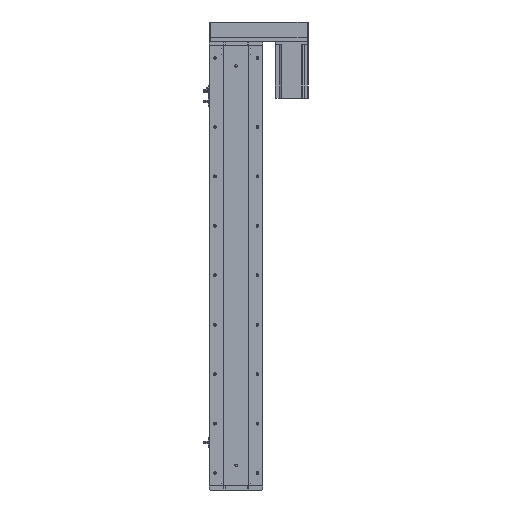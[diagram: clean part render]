
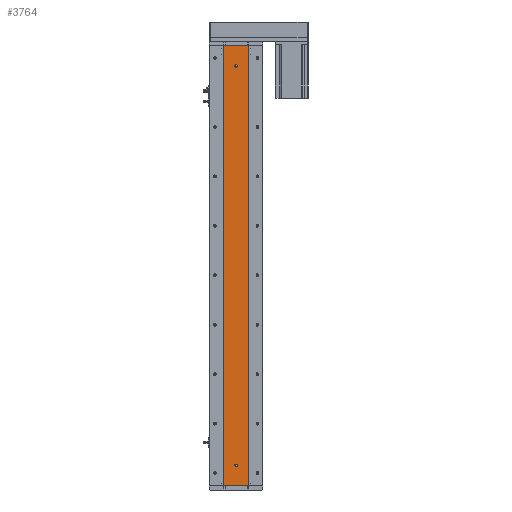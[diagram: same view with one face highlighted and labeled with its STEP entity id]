
A CAD part, left-side view. The second image highlights one B-rep face of the part: STEP entity #3764.
In plain terms, the highlighted planar face has unit normal (-1, 0, 0).
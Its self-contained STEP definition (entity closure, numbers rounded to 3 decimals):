
#118 = CARTESIAN_POINT ( 'NONE',  ( -24.994, -29.785, 0. ) ) ;
#349 = LINE ( 'NONE', #31557, #11146 ) ;
#865 = AXIS2_PLACEMENT_3D ( 'NONE', #8820, #34320, #12483 ) ;
#1896 = LINE ( 'NONE', #22833, #29828 ) ;
#2119 = CIRCLE ( 'NONE', #11476, 3. ) ;
#3764 = ADVANCED_FACE ( 'NONE', ( #26400, #16720, #34947 ), #35056, .F. ) ;
#5273 = VERTEX_POINT ( 'NONE', #28126 ) ;
#6549 = EDGE_CURVE ( 'NONE', #38522, #5273, #2119, .T. ) ;
#6671 = CIRCLE ( 'NONE', #865, 3. ) ;
#6936 = VERTEX_POINT ( 'NONE', #14457 ) ;
#7376 = DIRECTION ( 'NONE',  ( -1., 0., 0. ) ) ;
#8820 = CARTESIAN_POINT ( 'NONE',  ( -24.994, 0., 50. ) ) ;
#8858 = VERTEX_POINT ( 'NONE', #14610 ) ;
#9101 = AXIS2_PLACEMENT_3D ( 'NONE', #16028, #41478, #19709 ) ;
#9588 = VECTOR ( 'NONE', #18012, 1000. ) ;
#9702 = DIRECTION ( 'NONE',  ( 0., -1., 0. ) ) ;
#10252 = AXIS2_PLACEMENT_3D ( 'NONE', #29227, #7376, #32865 ) ;
#10328 = EDGE_LOOP ( 'NONE', ( #16203, #44914 ) ) ;
#10852 = CIRCLE ( 'NONE', #10252, 3. ) ;
#11146 = VECTOR ( 'NONE', #9702, 1000. ) ;
#11476 = AXIS2_PLACEMENT_3D ( 'NONE', #41228, #19440, #44890 ) ;
#12483 = DIRECTION ( 'NONE',  ( 0., 0., 1. ) ) ;
#13153 = ORIENTED_EDGE ( 'NONE', *, *, #46495, .F. ) ;
#14457 = CARTESIAN_POINT ( 'NONE',  ( -24.994, 29.785, 0. ) ) ;
#14610 = CARTESIAN_POINT ( 'NONE',  ( -24.994, 0., 1022. ) ) ;
#15378 = ORIENTED_EDGE ( 'NONE', *, *, #17985, .F. ) ;
#16028 = CARTESIAN_POINT ( 'NONE',  ( -24.994, 0., 1019. ) ) ;
#16203 = ORIENTED_EDGE ( 'NONE', *, *, #23705, .F. ) ;
#16720 = FACE_BOUND ( 'NONE', #10328, .T. ) ;
#17069 = CARTESIAN_POINT ( 'NONE',  ( -24.994, 29.785, 1069. ) ) ;
#17148 = EDGE_CURVE ( 'NONE', #25633, #6936, #29032, .T. ) ;
#17985 = EDGE_CURVE ( 'NONE', #42693, #8858, #36855, .T. ) ;
#18012 = DIRECTION ( 'NONE',  ( 0., 0., -1. ) ) ;
#19440 = DIRECTION ( 'NONE',  ( -1., 0., 0. ) ) ;
#19565 = AXIS2_PLACEMENT_3D ( 'NONE', #17069, #42510, #20751 ) ;
#19709 = DIRECTION ( 'NONE',  ( 0., 0., 1. ) ) ;
#20751 = DIRECTION ( 'NONE',  ( 0., 0., -1. ) ) ;
#21172 = ORIENTED_EDGE ( 'NONE', *, *, #40652, .T. ) ;
#21510 = VERTEX_POINT ( 'NONE', #118 ) ;
#22099 = CARTESIAN_POINT ( 'NONE',  ( -24.994, 0., 1016. ) ) ;
#22833 = CARTESIAN_POINT ( 'NONE',  ( -24.994, 29.785, 0. ) ) ;
#23145 = EDGE_LOOP ( 'NONE', ( #21172, #39780, #29480, #37498 ) ) ;
#23705 = EDGE_CURVE ( 'NONE', #5273, #38522, #6671, .T. ) ;
#24157 = DIRECTION ( 'NONE',  ( 0., 0., -1. ) ) ;
#25633 = VERTEX_POINT ( 'NONE', #29002 ) ;
#26099 = EDGE_CURVE ( 'NONE', #38131, #21510, #29922, .T. ) ;
#26400 = FACE_BOUND ( 'NONE', #44105, .T. ) ;
#28126 = CARTESIAN_POINT ( 'NONE',  ( -24.994, 0., 53. ) ) ;
#29002 = CARTESIAN_POINT ( 'NONE',  ( -24.994, 29.785, 1069. ) ) ;
#29032 = LINE ( 'NONE', #29035, #9588 ) ;
#29035 = CARTESIAN_POINT ( 'NONE',  ( -24.994, 29.785, 1069. ) ) ;
#29227 = CARTESIAN_POINT ( 'NONE',  ( -24.994, 0., 1019. ) ) ;
#29418 = CARTESIAN_POINT ( 'NONE',  ( -24.994, -29.785, 1069. ) ) ;
#29480 = ORIENTED_EDGE ( 'NONE', *, *, #43648, .F. ) ;
#29828 = VECTOR ( 'NONE', #33645, 1000. ) ;
#29922 = LINE ( 'NONE', #45922, #38423 ) ;
#31557 = CARTESIAN_POINT ( 'NONE',  ( -24.994, 29.785, 1069. ) ) ;
#32865 = DIRECTION ( 'NONE',  ( 0., 0., 1. ) ) ;
#33645 = DIRECTION ( 'NONE',  ( 0., -1., 0. ) ) ;
#34320 = DIRECTION ( 'NONE',  ( -1., 0., 0. ) ) ;
#34947 = FACE_OUTER_BOUND ( 'NONE', #23145, .T. ) ;
#35056 = PLANE ( 'NONE',  #19565 ) ;
#36855 = CIRCLE ( 'NONE', #9101, 3. ) ;
#37498 = ORIENTED_EDGE ( 'NONE', *, *, #17148, .T. ) ;
#38131 = VERTEX_POINT ( 'NONE', #29418 ) ;
#38423 = VECTOR ( 'NONE', #24157, 1000. ) ;
#38522 = VERTEX_POINT ( 'NONE', #39211 ) ;
#39211 = CARTESIAN_POINT ( 'NONE',  ( -24.994, 0., 47. ) ) ;
#39780 = ORIENTED_EDGE ( 'NONE', *, *, #26099, .F. ) ;
#40652 = EDGE_CURVE ( 'NONE', #6936, #21510, #1896, .T. ) ;
#41228 = CARTESIAN_POINT ( 'NONE',  ( -24.994, 0., 50. ) ) ;
#41478 = DIRECTION ( 'NONE',  ( -1., 0., 0. ) ) ;
#42510 = DIRECTION ( 'NONE',  ( 1., 0., 0. ) ) ;
#42693 = VERTEX_POINT ( 'NONE', #22099 ) ;
#43648 = EDGE_CURVE ( 'NONE', #25633, #38131, #349, .T. ) ;
#44105 = EDGE_LOOP ( 'NONE', ( #13153, #15378 ) ) ;
#44890 = DIRECTION ( 'NONE',  ( 0., 0., 1. ) ) ;
#44914 = ORIENTED_EDGE ( 'NONE', *, *, #6549, .F. ) ;
#45922 = CARTESIAN_POINT ( 'NONE',  ( -24.994, -29.785, 1069. ) ) ;
#46495 = EDGE_CURVE ( 'NONE', #8858, #42693, #10852, .T. ) ;
